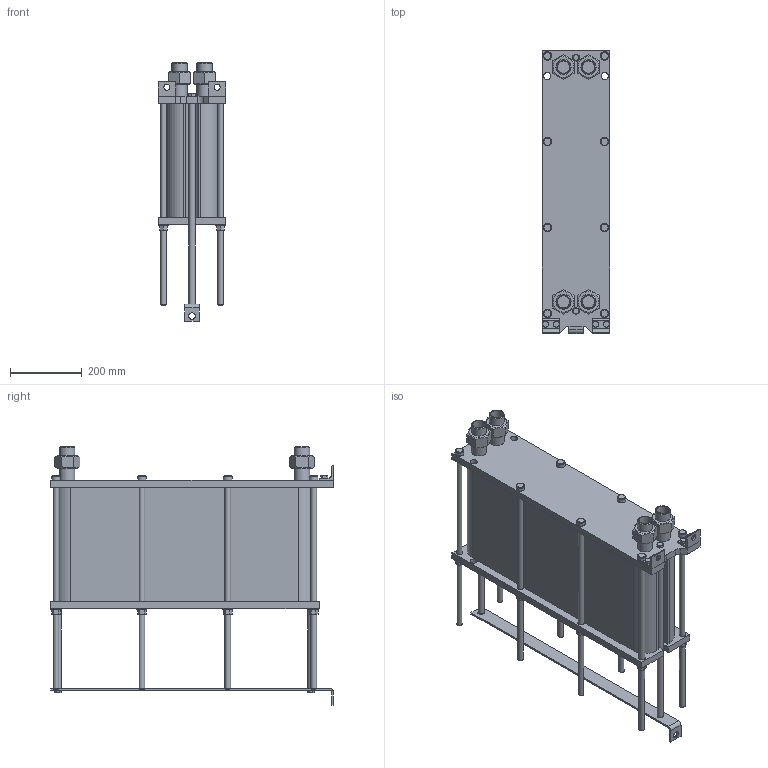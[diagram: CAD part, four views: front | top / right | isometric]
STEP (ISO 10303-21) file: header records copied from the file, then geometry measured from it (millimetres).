
FILE_DESCRIPTION(/* description */ (''),/* implementation_level */ '2;1');
FILE_NAME(/* name */ 'C:\Users\zhuro\Desktop\ENCO\TO\ЭН-008\ЭН-0,5-008-103-1.stp',/* time_stamp */ '2022-06-06T10:55:10+03:00',/* author */ ('zhuro'),/* organization */ (''),/* preprocessor_version */ 'ST-DEVELOPER v18.1',/* originating_system */ 'Autodesk Inventor 2022',/* authorisation */ '');
FILE_SCHEMA (('AUTOMOTIVE_DESIGN { 1 0 10303 214 3 1 1 }'));
Length unit declared in the file: millimetre
Products named in the file (1): ЭН-0,5-008-103-1
Bounding box: 190 x 790 x 723.4 mm (x, y, z)
Volume: 39531784.2 mm3; surface area: 2046901.3 mm2
Topology: 40 solids, 40 shells, 428 faces, 924 edges, 606 vertices
Faces by surface type: plane 273, cylinder 109, cone 40, torus 6
Full cylindrical faces by diameter (mm): 12 x6, 14 x2, 16 x20, 17 x8, 18 x19, 20 x5, 24 x8, 28 x8, 34.3 x8, 42.3 x8
Entity records: 15843 total; most frequent: CARTESIAN_POINT 5991, DIRECTION 1984, ORIENTED_EDGE 1848, EDGE_CURVE 924, AXIS2_PLACEMENT_3D 715, VERTEX_POINT 606, LINE 554, VECTOR 554
